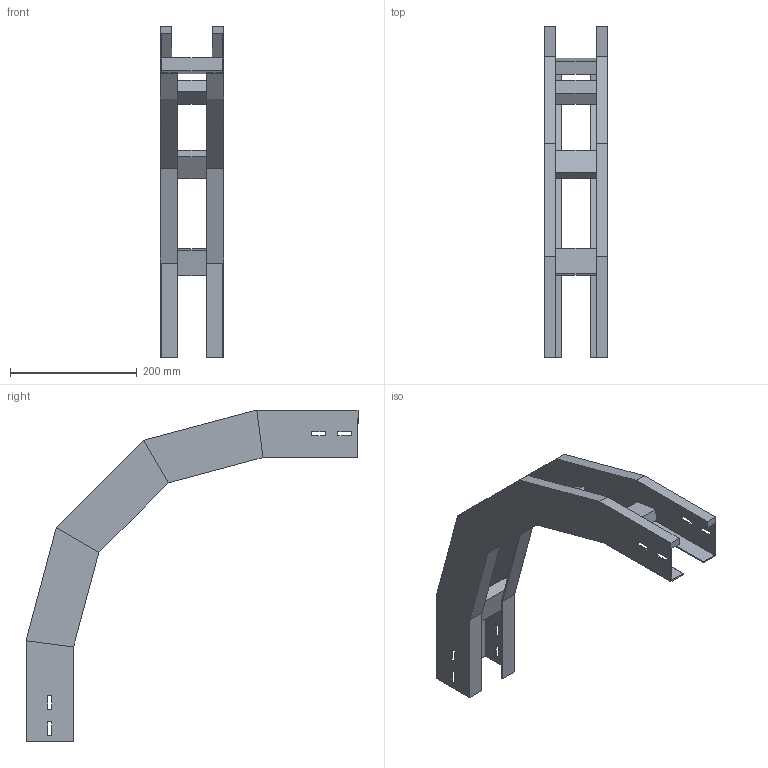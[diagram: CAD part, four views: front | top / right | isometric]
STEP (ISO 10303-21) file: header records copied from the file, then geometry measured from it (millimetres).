
FILE_DESCRIPTION (( 'STEP AP214' ), '1' );
FILE_NAME ('A2_33B3C100.step', '2025-02-21T15:05:19', ( '' ), ( '' ), 'SwSTEP 2.0', 'SolidWorks 2023', '' );
FILE_SCHEMA (( 'AUTOMOTIVE_DESIGN' ));
Length unit declared in the file: millimetre
Products named in the file (3): LONGH.DISCESA_90°_H75_R300; A2_33B3C100; TRAVERSINO_100
Assembly tree (6 placements, depth 2):
  A2_33B3C100
    LONGH.DISCESA_90°_H75_R300  x2
    TRAVERSINO_100  x4
Bounding box: 100 x 524.44 x 524.44 mm (x, y, z)
Volume: 968829.3 mm3; surface area: 439736 mm2
Topology: 6 solids, 6 shells, 140 faces, 320 edges, 192 vertices
Faces by surface type: plane 140
Entity records: 1872 total; most frequent: CARTESIAN_POINT 309, ORIENTED_EDGE 296, DIRECTION 294, LINE 148, EDGE_CURVE 148, VECTOR 148, VERTEX_POINT 88, AXIS2_PLACEMENT_3D 73
